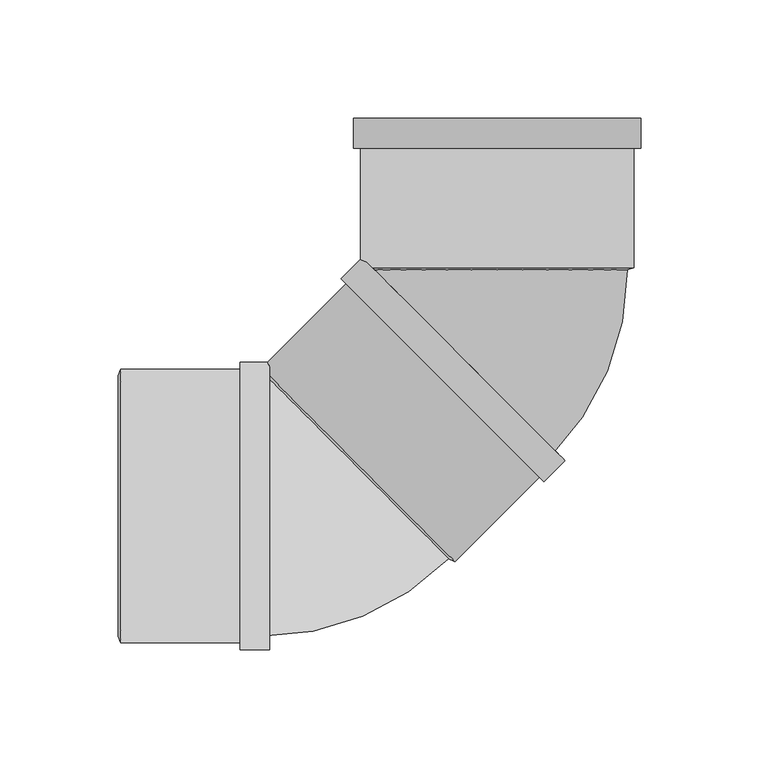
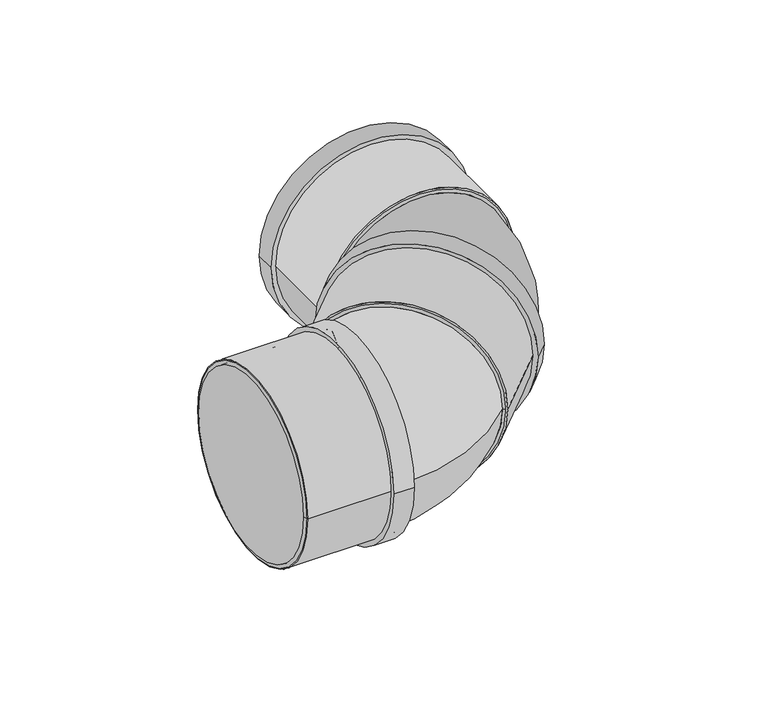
"""IFC4 building model written with IfcOpenShell, lengths in millimetres: pipe fitting geometry, Superdrain HT Bend Composite 2x45 : Superdrain HT Bend Composite 2x45."""

from ifc_helpers import new_model, si_unit, point, frame, origin, origin_2d, place, context, project, spatial, polyline, circle_curve, ellipse_curve, trimmed, segment, composite_curve, outline, extrude, source, transform, mapped, element, save
from ifc_brep_helpers import plane_surface, revolved_surface, advanced_brep


def pipe_fitting_87b8bd0e(model_context):
    return source(origin(), model_context, "Body", "SolidModel", [
        advanced_brep(
        [(55.0, 99.6846897, 0.0), (-55.0, 99.6846897, 0.0), (22.2031529, 20.5060967, 0.0), (-55.578593, 98.2878426, 0.0)],
        [
            (0, 1, circle_curve(frame((0.0, 99.6846897, 0.0), z_axis=(0.0, 0.9999999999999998, 0.0), x_axis=(-0.9999999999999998, 0.0, 0.0)), 55.0)),
            (1, 0, circle_curve(frame((0.0, 99.6846897, 0.0), z_axis=(0.0, 0.9999999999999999, 0.0), x_axis=(-0.9999999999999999, 0.0, 0.0)), 55.0)),
            (2, 3, circle_curve(frame((-16.68772, 59.3969696, 0.0), z_axis=(-0.7071067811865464, -0.7071067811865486, 0.0), x_axis=(-0.7071067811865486, 0.7071067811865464, 0.0)), 55.0)),
            (3, 2, circle_curve(frame((-16.68772, 59.3969696, 0.0), z_axis=(-0.7071067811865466, -0.7071067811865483, 0.0), x_axis=(-0.7071067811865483, 0.7071067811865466, 0.0)), 55.0)),
            (3, 1, circle_curve(frame((-56.9754401, 99.6846897, 0.0), z_axis=(0.0, 0.0, 1.0), x_axis=(0.7071067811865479, 0.707106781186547, 0.0)), 1.9754401)),
            (0, 2, circle_curve(frame((-56.9754401, 99.6846897, 0.0), z_axis=(0.0, 0.0, -1.0), x_axis=(0.7071067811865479, 0.707106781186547, 0.0)), 111.9754401)),
        ],
        [
            plane_surface(frame((0.0, 99.6846897, 0.0), z_axis=(0.0, 1.0, 0.0), x_axis=(0.0, 0.0, -1.0))),
            plane_surface(frame((-16.68772, 59.3969696, 0.0), z_axis=(-0.7071067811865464, -0.7071067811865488, 0.0), x_axis=(0.0, 0.0, -1.0))),
            revolved_surface(trimmed(ellipse_curve(frame((-16.68772, 139.9724097, 0.0), z_axis=(0.7071067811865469, -0.707106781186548, 0.0), x_axis=(-0.707106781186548, -0.7071067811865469, 0.0)), 55.0, 55.0), [point((-55.578593, 101.0815367, 0.0))], [point((22.2031529, 178.8632827, 0.0))], True, "CARTESIAN"), (-56.9754401, 99.6846897, 0.0), (0.0, 0.0, 1.0)),
            revolved_surface(trimmed(ellipse_curve(frame((-16.68772, 139.9724097, 0.0), z_axis=(0.7071067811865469, -0.707106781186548, 0.0), x_axis=(-0.707106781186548, -0.7071067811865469, 0.0)), 55.0, 55.0), [point((22.2031529, 178.8632827, 0.0))], [point((-55.578593, 101.0815367, 0.0))], True, "CARTESIAN"), (-56.9754401, 99.6846897, 0.0), (0.0, 0.0, 1.0)),
        ],
        [
            (0, [[1, 2]]),
            (1, [[3, 4]]),
            (2, [[-4, 5, -1, 6]]),
            (3, [[-3, -6, -2, -5]]),
        ],
    ),
        extrude(outline(composite_curve([segment(trimmed(circle_curve(origin_2d(), 57.75), [point((0.0, 57.75))], [point((0.0, -57.75))], False, "CARTESIAN"), True, "CONTINUOUS"), segment(trimmed(circle_curve(origin_2d(), 57.75), [point((0.0, -57.75))], [point((0.0, 57.75))], False, "CARTESIAN"), True, "CONTINUOUS")], self_intersect=False), holes=[composite_curve([segment(trimmed(circle_curve(origin_2d(), 55.0), [point((0.0, 55.0))], [point((0.0, -55.0))], True, "CARTESIAN"), True, "CONTINUOUS"), segment(trimmed(circle_curve(origin_2d(), 55.0), [point((0.0, -55.0))], [point((0.0, 55.0))], True, "CARTESIAN"), True, "CONTINUOUS")], self_intersect=False)]), frame((0.0, 100.6846897, 0.0), z_axis=(0.0, 1.0, 0.0), x_axis=(0.0, 0.0, 1.0)), (0.0, 0.0, 1.0), 63.0),
        extrude(outline(composite_curve([segment(trimmed(circle_curve(origin_2d(), 60.6375), [point((0.0, -60.6375))], [point((0.0, 60.6375))], False, "CARTESIAN"), True, "CONTINUOUS"), segment(trimmed(circle_curve(origin_2d(), 60.6375), [point((0.0, 60.6375))], [point((0.0, -60.6375))], False, "CARTESIAN"), True, "CONTINUOUS")], self_intersect=False), holes=[composite_curve([segment(trimmed(circle_curve(origin_2d(), 55.0), [point((0.0, -55.0))], [point((0.0, 55.0))], True, "CARTESIAN"), True, "CONTINUOUS"), segment(trimmed(circle_curve(origin_2d(), 55.0), [point((0.0, 55.0))], [point((0.0, -55.0))], True, "CARTESIAN"), True, "CONTINUOUS")], self_intersect=False)]), frame((0.0, 151.0846897, 0.0), z_axis=(0.0, 1.0, 0.0), x_axis=(0.0, 0.0, 1.0)), (0.0, 0.0, 1.0), 12.6),
        advanced_brep(
        [(57.75, 100.6846897, 0.0), (-57.75, 100.6846897, 0.0), (55.0, 99.6846897, 0.0), (-55.0, 99.6846897, 0.0)],
        [
            (0, 1, circle_curve(frame((0.0, 100.6846897, 0.0), z_axis=(0.0, 1.0, 0.0), x_axis=(1.0, 0.0, 0.0)), 57.75)),
            (1, 0, circle_curve(frame((0.0, 100.6846897, 0.0), z_axis=(0.0, 1.0, 0.0), x_axis=(-1.0, 0.0, 0.0)), 57.75)),
            (2, 3, circle_curve(frame((0.0, 99.6846897, 0.0), z_axis=(0.0, -1.0, 0.0), x_axis=(-1.0, 0.0, 0.0)), 55.0)),
            (3, 2, circle_curve(frame((0.0, 99.6846897, 0.0), z_axis=(0.0, -1.0, 0.0), x_axis=(1.0, 0.0, 0.0)), 55.0)),
            (3, 1),
            (0, 2),
        ],
        [
            plane_surface(frame((0.0, 100.6846897, 0.0), z_axis=(0.0, 1.0, 0.0), x_axis=(0.0, 0.0, -1.0))),
            plane_surface(frame((0.0, 99.6846897, 0.0), z_axis=(0.0, -1.0, 0.0), x_axis=(0.0, 0.0, -1.0))),
            revolved_surface(polyline([(-55.0, 99.6846897, 0.0), (-57.75, 100.6846897, 0.0)]), (0.0, 79.6846897, 0.0), (0.0, 0.9999999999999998, 0.0)),
            revolved_surface(polyline([(55.0, 99.6846897, 0.0), (57.75, 100.6846897, 0.0)]), (0.0, 79.6846897, 0.0), (0.0, 0.9999999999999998, 0.0)),
        ],
        [
            (0, [[1, 2]]),
            (1, [[3, 4]]),
            (2, [[-4, 5, -1, 6]]),
            (3, [[-3, -6, -2, -5]]),
        ],
    ),
        extrude(outline(composite_curve([segment(trimmed(circle_curve(origin_2d(), 55.0), [point((0.0, -54.9999999))], [point((0.0, 55.0))], False, "CARTESIAN"), True, "CONTINUOUS"), segment(trimmed(circle_curve(origin_2d(), 55.0), [point((0.0, 55.0))], [point((0.0, -54.9999999))], False, "CARTESIAN"), True, "CONTINUOUS")], self_intersect=False)), frame((-58.6898628, 17.3948268, 0.0), z_axis=(0.707106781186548, 0.7071067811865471, 0.0), x_axis=(0.0, 0.0, -1.0)), (0.0, 0.0, 1.0), 59.4),
        extrude(outline(composite_curve([segment(trimmed(circle_curve(origin_2d(), 57.75), [point((57.75, 0.0))], [point((-57.75, 0.0))], False, "CARTESIAN"), True, "CONTINUOUS"), segment(trimmed(circle_curve(origin_2d(), 57.75), [point((-57.75, 0.0))], [point((57.75, 0.0))], False, "CARTESIAN"), True, "CONTINUOUS")], self_intersect=False), holes=[composite_curve([segment(trimmed(circle_curve(origin_2d(), 55.0), [point((55.0, 0.0))], [point((-55.0, 0.0))], True, "CARTESIAN"), True, "CONTINUOUS"), segment(trimmed(circle_curve(origin_2d(), 55.0), [point((-55.0, 0.0))], [point((55.0, 0.0))], True, "CARTESIAN"), True, "CONTINUOUS")], self_intersect=False)]), frame((-159.0846897, 0.0, 0.0), z_axis=(1.0, 0.0, 0.0), x_axis=(0.0, 1.0, 0.0)), (0.0, 0.0, 1.0), 63.0),
        extrude(outline(composite_curve([segment(trimmed(circle_curve(origin_2d(), 60.6375), [point((60.6375, 0.0))], [point((-60.6375, 0.0))], False, "CARTESIAN"), True, "CONTINUOUS"), segment(trimmed(circle_curve(origin_2d(), 60.6375), [point((-60.6375, 0.0))], [point((60.6375, 0.0))], False, "CARTESIAN"), True, "CONTINUOUS")], self_intersect=False), holes=[composite_curve([segment(trimmed(circle_curve(origin_2d(), 55.0), [point((55.0, 0.0))], [point((-55.0, 0.0))], True, "CARTESIAN"), True, "CONTINUOUS"), segment(trimmed(circle_curve(origin_2d(), 55.0), [point((-55.0, 0.0))], [point((55.0, 0.0))], True, "CARTESIAN"), True, "CONTINUOUS")], self_intersect=False)]), frame((-108.6846897, 0.0, 0.0), z_axis=(1.0, 0.0, 0.0), x_axis=(0.0, 1.0, 0.0)), (0.0, 0.0, 1.0), 12.6),
        advanced_brep(
        [(-160.0846897, 55.0, 0.0), (-160.0846897, -55.0, 0.0), (-159.0846897, 57.75, 0.0), (-159.0846897, -57.75, 0.0)],
        [
            (0, 1, circle_curve(frame((-160.0846897, 0.0, 0.0), z_axis=(-1.0, 0.0, 0.0), x_axis=(0.0, 1.0000000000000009, 0.0)), 55.0)),
            (1, 0, circle_curve(frame((-160.0846897, 0.0, 0.0), z_axis=(-1.0, 0.0, 0.0), x_axis=(0.0, -1.0000000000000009, 0.0)), 55.0)),
            (2, 3, circle_curve(frame((-159.0846897, 0.0, 0.0), z_axis=(1.0, 0.0, 0.0), x_axis=(0.0, -1.0000000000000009, 0.0)), 57.75)),
            (3, 2, circle_curve(frame((-159.0846897, 0.0, 0.0), z_axis=(1.0, 0.0, 0.0), x_axis=(0.0, 1.0000000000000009, 0.0)), 57.75)),
            (3, 1),
            (0, 2),
        ],
        [
            plane_surface(frame((-160.0846897, 0.0, 0.0), z_axis=(-1.0, 0.0, 0.0), x_axis=(0.0, 0.0, -1.0))),
            plane_surface(frame((-159.0846897, 0.0, 0.0), z_axis=(1.0, 0.0, 0.0), x_axis=(0.0, 0.0, -1.0))),
            revolved_surface(polyline([(-160.0846897, 54.99999999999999, 0.0), (-159.0846897, 57.75, 0.0)]), (-180.0846897, 0.0, 0.0), (1.0000000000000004, 0.0, 0.0)),
            revolved_surface(polyline([(-160.0846897, -54.99999999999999, 0.0), (-159.0846897, -57.75, 0.0)]), (-180.0846897, 0.0, 0.0), (1.0000000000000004, 0.0, 0.0)),
        ],
        [
            (0, [[1, 2]]),
            (1, [[3, 4]]),
            (2, [[-4, 5, -1, 6]]),
            (3, [[-3, -6, -2, -5]]),
        ],
    ),
        advanced_brep(
        [(-20.5060967, -22.2031529, 0.0), (-98.2878426, 55.578593, 0.0), (-99.6846897, -55.0, 0.0), (-99.6846897, 55.0, 0.0)],
        [
            (0, 1, circle_curve(frame((-59.3969696, 16.68772, 0.0), z_axis=(0.7071067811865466, 0.7071067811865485, 0.0), x_axis=(-0.7071067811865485, 0.7071067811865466, 0.0)), 55.0)),
            (1, 0, circle_curve(frame((-59.3969696, 16.68772, 0.0), z_axis=(0.7071067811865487, 0.7071067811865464, 0.0), x_axis=(-0.7071067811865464, 0.7071067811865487, 0.0)), 55.0)),
            (2, 3, circle_curve(frame((-99.6846897, 0.0, 0.0), z_axis=(-1.0, 0.0, 0.0), x_axis=(0.0, 1.0, 0.0)), 55.0)),
            (3, 2, circle_curve(frame((-99.6846897, 0.0, 0.0), z_axis=(-1.0, 0.0, 0.0), x_axis=(0.0, 1.0, 0.0)), 55.0)),
            (3, 1, circle_curve(frame((-99.6846897, 56.9754401, 0.0), z_axis=(0.0, 0.0, 1.0), x_axis=(1.0, 0.0, 0.0)), 1.9754401)),
            (0, 2, circle_curve(frame((-99.6846897, 56.9754401, 0.0), z_axis=(0.0, 0.0, -1.0), x_axis=(1.0, 0.0, 0.0)), 111.9754401)),
        ],
        [
            plane_surface(frame((-59.3969696, 16.68772, 0.0), z_axis=(0.7071067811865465, 0.7071067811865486, 0.0), x_axis=(0.0, 0.0, -1.0))),
            plane_surface(frame((-99.6846897, 0.0, 0.0), z_axis=(-1.0, 0.0, 0.0), x_axis=(0.0, 0.0, -1.0))),
            revolved_surface(trimmed(ellipse_curve(frame((-42.7092496, 56.9754401, 0.0), z_axis=(0.0, -1.0, 0.0), x_axis=(-1.0, 0.0, 0.0)), 55.0, 55.0), [point((-97.7092496, 56.9754401, 0.0))], [point((12.2907504, 56.9754401, 0.0))], True, "CARTESIAN"), (-99.6846897, 56.9754401, 0.0), (0.0, 0.0, 1.0)),
            revolved_surface(trimmed(ellipse_curve(frame((-42.7092496, 56.9754401, 0.0), z_axis=(0.0, -1.0, 0.0), x_axis=(-1.0, 0.0, 0.0)), 55.0, 55.0), [point((12.2907504, 56.9754401, 0.0))], [point((-97.7092496, 56.9754401, 0.0))], True, "CARTESIAN"), (-99.6846897, 56.9754401, 0.0), (0.0, 0.0, 1.0)),
        ],
        [
            (0, [[1, 2]]),
            (1, [[3, 4]]),
            (2, [[-4, 5, -1, 6]]),
            (3, [[-3, -6, -2, -5]]),
        ],
    ),
        extrude(outline(composite_curve([segment(trimmed(circle_curve(origin_2d(), 57.75), [point((0.0, 57.75))], [point((0.0, -57.7500001))], False, "CARTESIAN"), True, "CONTINUOUS"), segment(trimmed(circle_curve(origin_2d(), 57.75), [point((0.0, -57.7500001))], [point((0.0, 57.75))], False, "CARTESIAN"), True, "CONTINUOUS")], self_intersect=False), holes=[composite_curve([segment(trimmed(circle_curve(origin_2d(), 55.0), [point((0.0, 54.9999999))], [point((0.0, -55.0))], True, "CARTESIAN"), True, "CONTINUOUS"), segment(trimmed(circle_curve(origin_2d(), 55.0), [point((0.0, -55.0))], [point((0.0, 54.9999999))], True, "CARTESIAN"), True, "CONTINUOUS")], self_intersect=False)]), frame((-58.6898628, 17.3948268, 0.0), z_axis=(0.7071067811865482, 0.7071067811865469, 0.0), x_axis=(0.0, 0.0, 1.0)), (0.0, 0.0, 1.0), 63.0),
        extrude(outline(composite_curve([segment(trimmed(circle_curve(origin_2d(), 60.6375), [point((0.0, -60.6374999))], [point((0.0, 60.6375001))], False, "CARTESIAN"), True, "CONTINUOUS"), segment(trimmed(circle_curve(origin_2d(), 60.6375), [point((0.0, 60.6375001))], [point((0.0, -60.6374999))], False, "CARTESIAN"), True, "CONTINUOUS")], self_intersect=False), holes=[composite_curve([segment(trimmed(circle_curve(origin_2d(), 55.0), [point((0.0, -55.0))], [point((0.0, 55.0))], True, "CARTESIAN"), True, "CONTINUOUS"), segment(trimmed(circle_curve(origin_2d(), 55.0), [point((0.0, 55.0))], [point((0.0, -55.0))], True, "CARTESIAN"), True, "CONTINUOUS")], self_intersect=False)]), frame((-23.0516811, 53.0330086, 0.0), z_axis=(0.7071067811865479, 0.7071067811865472, 0.0), x_axis=(0.0, 0.0, 1.0)), (0.0, 0.0, 1.0), 12.6),
        advanced_brep(
        [(-17.8544462, -23.4405898, 0.0), (-99.5252795, 58.2302434, 0.0), (-20.5060967, -22.2031529, 0.0), (-98.2878426, 55.578593, 0.0)],
        [
            (0, 1, circle_curve(frame((-58.6898628, 17.3948268, 0.0), z_axis=(0.7071067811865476, 0.7071067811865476, 0.0), x_axis=(0.7071067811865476, -0.7071067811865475, 0.0)), 57.75)),
            (1, 0, circle_curve(frame((-58.6898628, 17.3948268, 0.0), z_axis=(0.7071067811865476, 0.7071067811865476, 0.0), x_axis=(-0.7071067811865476, 0.7071067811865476, 0.0)), 57.75)),
            (2, 3, circle_curve(frame((-59.3969696, 16.68772, 0.0), z_axis=(-0.7071067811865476, -0.7071067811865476, 0.0), x_axis=(-0.7071067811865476, 0.7071067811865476, 0.0)), 55.0)),
            (3, 2, circle_curve(frame((-59.3969696, 16.68772, 0.0), z_axis=(-0.7071067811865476, -0.7071067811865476, 0.0), x_axis=(0.7071067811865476, -0.7071067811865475, 0.0)), 55.0)),
            (3, 1),
            (0, 2),
        ],
        [
            plane_surface(frame((-58.6898628, 17.3948268, 0.0), z_axis=(0.7071067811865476, 0.7071067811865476, 0.0), x_axis=(0.0, 0.0, -1.0))),
            plane_surface(frame((-59.3969696, 16.68772, 0.0), z_axis=(-0.7071067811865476, -0.7071067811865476, 0.0), x_axis=(0.0, 0.0, -1.0))),
            revolved_surface(polyline([(-98.28784267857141, 55.5785930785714, 0.0), (-99.5252795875, 58.230243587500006, 0.0)]), (-73.5391052, 2.5455844, 0.0), (0.7071067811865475, 0.7071067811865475, 0.0)),
            revolved_surface(polyline([(-20.50609670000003, -22.203152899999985, 0.0), (-17.854446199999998, -23.4405898, 0.0)]), (-73.5391052, 2.5455844, 0.0), (0.7071067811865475, 0.7071067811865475, 0.0)),
        ],
        [
            (0, [[1, 2]]),
            (1, [[3, 4]]),
            (2, [[-4, 5, -1, 6]]),
            (3, [[-3, -6, -2, -5]]),
        ],
    ),
        extrude(outline(composite_curve([segment(trimmed(circle_curve(origin_2d(), 55.0), [point((-55.0, 0.0))], [point((55.0, 0.0))], False, "CARTESIAN"), True, "CONTINUOUS"), segment(trimmed(circle_curve(origin_2d(), 55.0), [point((55.0, 0.0))], [point((-55.0, 0.0))], False, "CARTESIAN"), True, "CONTINUOUS")], self_intersect=False)), frame((-159.0846897, 0.0, 0.0), z_axis=(1.0, 0.0, 0.0), x_axis=(0.0, 1.0, 0.0)), (0.0, 0.0, 1.0), 59.4),
    ])


if __name__ == "__main__":
    model = new_model("IFC4")
    model_context = context("Model", 3, world=origin())
    ifc_project = project(units=[si_unit("LENGTHUNIT", "METRE", prefix="MILLI")], contexts=[model_context])
    site = spatial("IfcSite", under=ifc_project)
    building = spatial("IfcBuilding", under=site)
    placement = place(None, origin())
    pipe_fitting_shape = pipe_fitting_87b8bd0e(model_context)
    element("IfcPipeFitting", 1, ObjectType="Superdrain HT Bend Composite 2x45 : Superdrain HT Bend Composite 2x45", at=placement, inside=building, context=model_context, shape_type="MappedRepresentation", body=[
        mapped(pipe_fitting_shape, transform((0.0, 0.0, 0.0), x_axis=(1.0, 0.0, 0.0), y_axis=(0.0, 1.0, 0.0), z_axis=(0.0, 0.0, 1.0))),
    ])
    save(model, "model.ifc")
